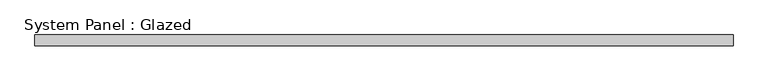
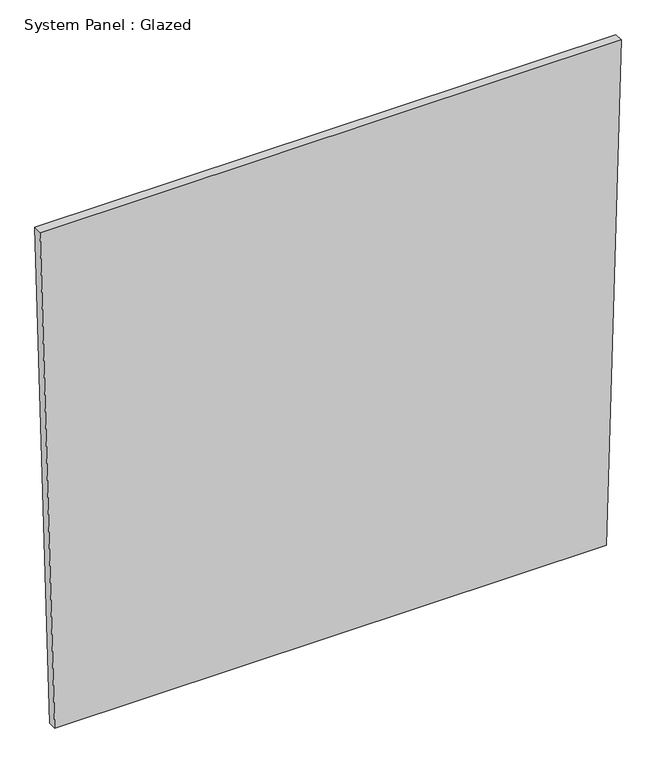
"""IFC4 building model written with IfcOpenShell, lengths in millimetres: plate geometry, System Panel : Glazed."""

from ifc_helpers import new_model, si_unit, frame, origin, place, context, project, spatial, polyline, outline, extrude, source, transform, mapped, element, save


def system_panel_glazed_ac3e331d(model_context):
    return source(origin(), model_context, "Body", "SweptSolid", [
        extrude(outline(polyline([(0.0, -782.4943121), (0.0, 782.4943001), (1499.4291191, 823.8744616), (1499.4291191, -823.8744616), (0.0, -782.4943121)])), frame((0.0, -49.5, 0.0), z_axis=(0.0, 1.0, 0.0), x_axis=(0.0, 0.0, 1.0)), (0.0, 0.0, 1.0), 25.0),
    ])


if __name__ == "__main__":
    model = new_model("IFC4")
    model_context = context("Model", 3, world=origin())
    ifc_project = project(units=[si_unit("LENGTHUNIT", "METRE", prefix="MILLI")], contexts=[model_context])
    site = spatial("IfcSite", under=ifc_project)
    building = spatial("IfcBuilding", under=site)
    placement = place(None, origin())
    system_panel_glazed_shape = system_panel_glazed_ac3e331d(model_context)
    element("IfcPlate", 1, ObjectType="System Panel : Glazed", at=placement, inside=building, context=model_context, shape_type="MappedRepresentation", body=[
        mapped(system_panel_glazed_shape, transform((0.0, 0.0, 0.0), x_axis=(1.0, 0.0, 0.0), y_axis=(0.0, 1.0, 0.0), z_axis=(0.0, 0.0, 1.0))),
    ])
    save(model, "model.ifc")
